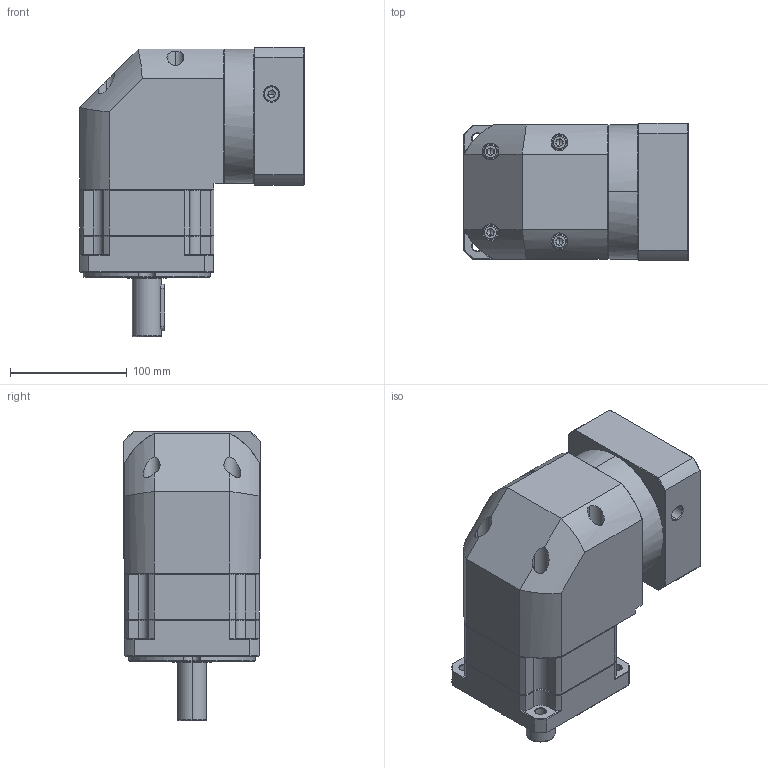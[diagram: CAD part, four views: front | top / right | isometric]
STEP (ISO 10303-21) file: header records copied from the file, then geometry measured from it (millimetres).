
FILE_DESCRIPTION (( 'STEP AP214' ), '1' );
FILE_NAME ('ZBR115A-D25-L1-P2-22-95-115-M8.step', '2023-08-26T12:31:03', ( '' ), ( '' ), 'SwSTEP 2.0', 'SolidWorks 2016', '' );
FILE_SCHEMA (( 'AUTOMOTIVE_DESIGN' ));
Length unit declared in the file: millimetre
Products named in the file (1): ZBR115A-D25-L1-P2-22-95-115-M8
Bounding box: 192.4 x 118 x 248 mm (x, y, z)
Volume: 2959430.8 mm3; surface area: 246188.7 mm2
Topology: 6 solids, 6 shells, 2380 faces, 6233 edges, 3957 vertices
Faces by surface type: plane 1139, cylinder 439, bspline 425, cone 369, torus 8
Entity records: 128037 total; most frequent: CARTESIAN_POINT 46915, ORIENTED_EDGE 12406, DIRECTION 9780, EDGE_CURVE 6203, LINE 3990, VECTOR 3990, VERTEX_POINT 3957, AXIS2_PLACEMENT_3D 2895
